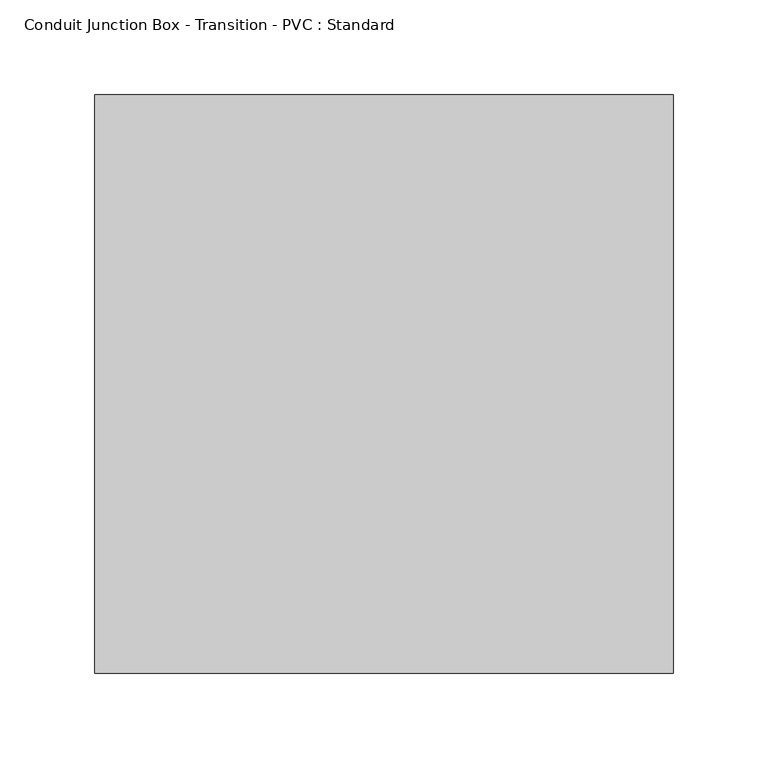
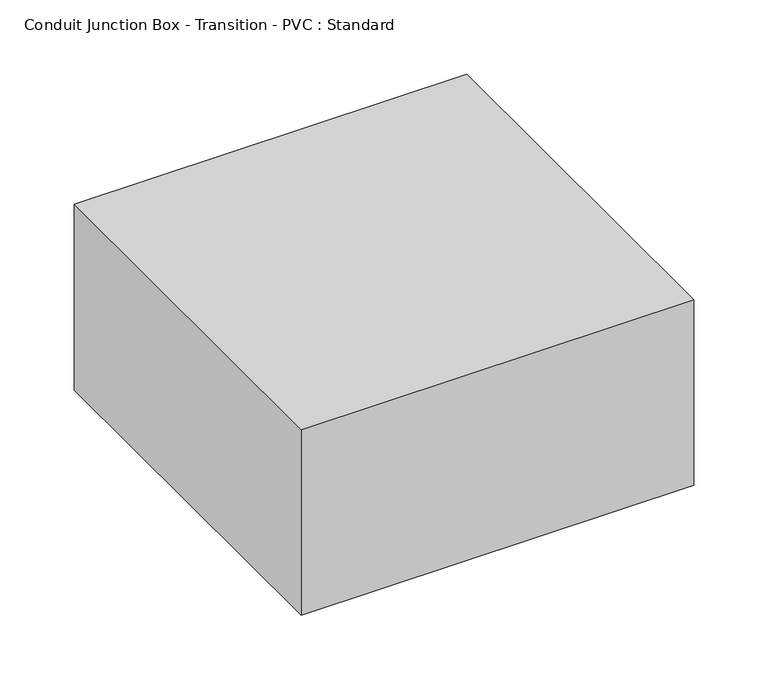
"""IFC4 building model written with IfcOpenShell, lengths in millimetres: cable carrier fitting geometry, Conduit Junction Box - Transition - PVC : Standard."""

from ifc_helpers import new_model, si_unit, frame, origin, place, context, project, spatial, polyline, outline, extrude, source, transform, mapped, element, save


def conduit_junction_box_transition_pvc_standard_5b6be8b8(model_context):
    return source(origin(), model_context, "Body", "SweptSolid", [
        extrude(outline(polyline([(304.8, 152.4), (304.8, -152.4), (0.0, -152.4), (0.0, 152.4), (304.8, 152.4)])), frame((0.0, 0.0, -76.2), z_axis=(0.0, 0.0, 1.0), x_axis=(1.0, 0.0, 0.0)), (0.0, 0.0, 1.0), 152.4),
    ])


if __name__ == "__main__":
    model = new_model("IFC4")
    model_context = context("Model", 3, world=origin())
    ifc_project = project(units=[si_unit("LENGTHUNIT", "METRE", prefix="MILLI")], contexts=[model_context])
    site = spatial("IfcSite", under=ifc_project)
    building = spatial("IfcBuilding", under=site)
    placement = place(None, origin())
    conduit_junction_box_transition_pvc_standard_shape = conduit_junction_box_transition_pvc_standard_5b6be8b8(model_context)
    element("IfcCableCarrierFitting", 1, ObjectType="Conduit Junction Box - Transition - PVC : Standard", at=placement, inside=building, context=model_context, shape_type="MappedRepresentation", body=[
        mapped(conduit_junction_box_transition_pvc_standard_shape, transform((0.0, 0.0, 0.0), x_axis=(1.0, 0.0, 0.0), y_axis=(0.0, 1.0, 0.0), z_axis=(0.0, 0.0, 1.0))),
    ])
    save(model, "model.ifc")
